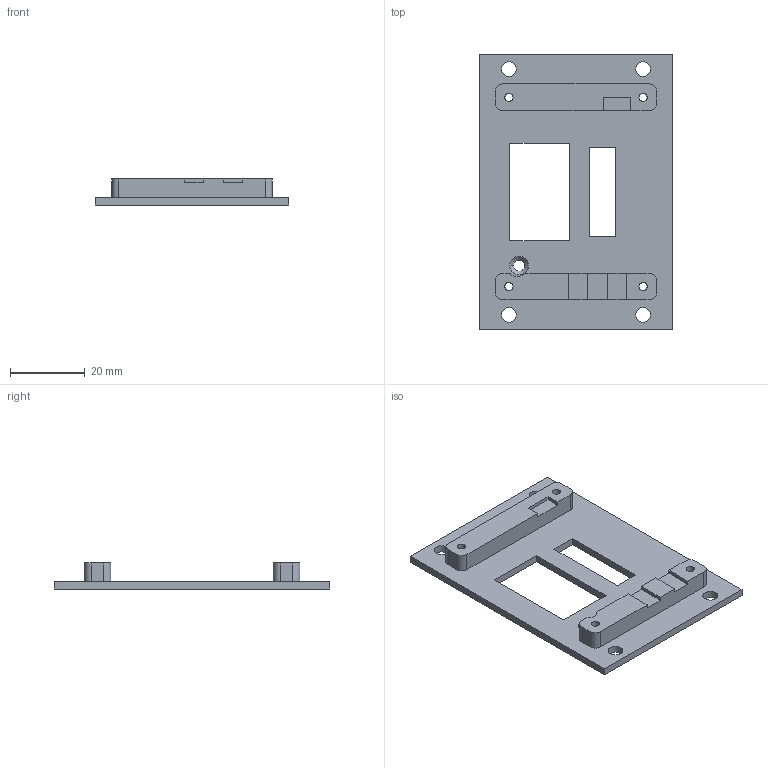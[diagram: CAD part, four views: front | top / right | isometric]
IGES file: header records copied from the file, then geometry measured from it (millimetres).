
Start section: START RECORD GO HERE.
Global section: file name: W3001_Einbaurahmen.igs; native system: IBM CATIA IGES - CATIA Version 5 Release 19 ; preprocessor: CATIA Version 5 Release 19 ; author: Administrator; organization: M0000815; date: 20230320.160654; units: millimetre
Bounding box: 52 x 74 x 7 mm (x, y, z)
Surface area: 8472.2 mm2 (no closed solid volume)
Topology: 0 solids, 0 shells, 66 faces, 374 edges, 374 vertices
Faces by surface type: plane 37, revolution 29
